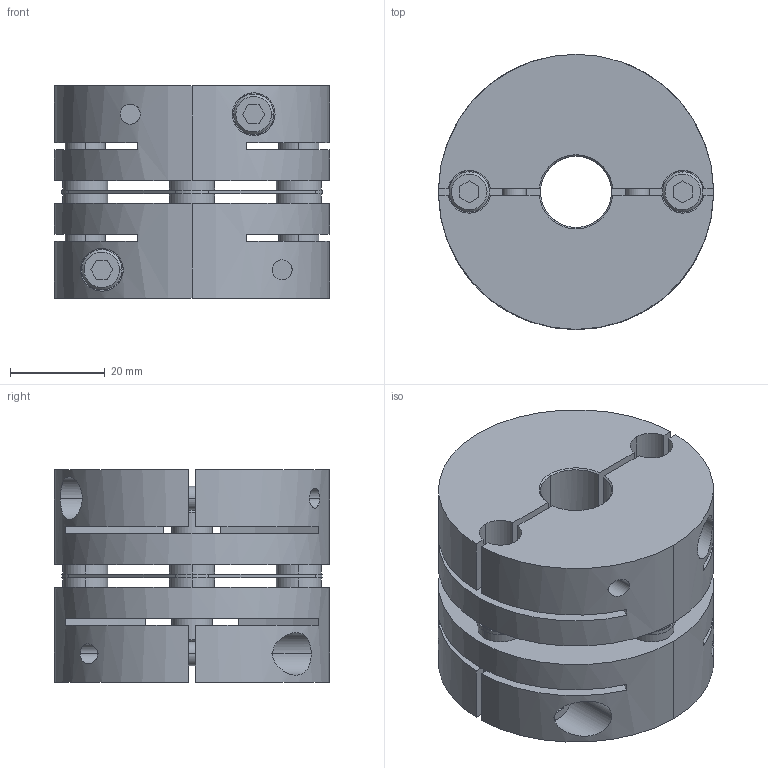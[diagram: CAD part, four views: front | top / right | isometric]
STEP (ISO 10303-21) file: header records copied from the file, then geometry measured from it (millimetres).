
FILE_DESCRIPTION((''),'2;1');
FILE_NAME('LAS-58C-15×22.stp','2015-10-15T14:48:49',(''),(''),'AutoCAD STEP 2000i','AutoCAD 2000i',', , ');
FILE_SCHEMA(('CONFIG_CONTROL_DESIGN'));
Length unit declared in the file: millimetre
Products named in the file (6): LAS-58C-12×19; 忣兜1; LA-5802-D19; LA-5802-D12-1; LA-5802-D12; LAS58-ITA
Assembly tree (5 placements, depth 2):
  LAS-58C-12×19
    忣兜1
    LA-5802-D19
    LA-5802-D12-1
    LA-5802-D12
    LAS58-ITA
Bounding box: 58 x 58 x 44.8 mm (x, y, z)
Volume: 85427.9 mm3; surface area: 33086.7 mm2
Topology: 1 solids, 1 shells, 238 faces, 618 edges, 404 vertices
Faces by surface type: plane 114, cylinder 96, cone 28
Entity records: 8213 total; most frequent: CARTESIAN_POINT 1988, DIRECTION 1316, ORIENTED_EDGE 1240, EDGE_CURVE 620, AXIS2_PLACEMENT_3D 484, VERTEX_POINT 404, VECTOR 348, LINE 348
